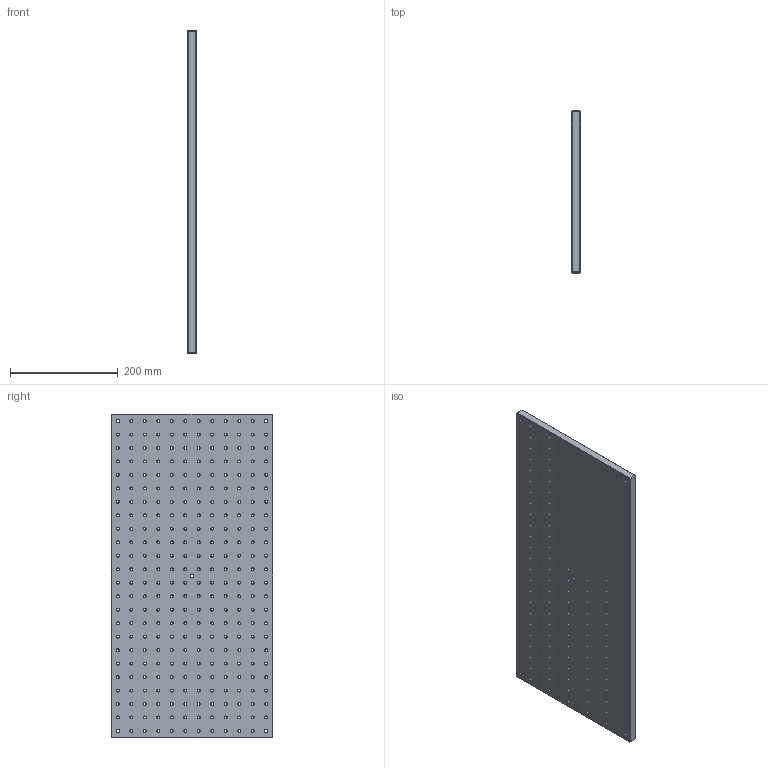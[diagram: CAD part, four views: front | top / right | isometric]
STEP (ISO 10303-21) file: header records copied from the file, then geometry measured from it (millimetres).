
FILE_DESCRIPTION(/* description */ (''),/* implementation_level */ '2;1');
FILE_NAME(/* name */ 'U:\KONSTRUKTORIAI\DOKUMENTACIJA\1\1B-ALE\1B-ALE-30-60-015\step\1B-ALE-30-60-015.stp',/* time_stamp */ '2016-06-15T08:10:26+03:00',/* author */ ('dsgn31'),/* organization */ (''),/* preprocessor_version */ 'ST-DEVELOPER v15.2',/* originating_system */ 'Autodesk Inventor 2014',/* authorisation */ '');
FILE_SCHEMA (('AUTOMOTIVE_DESIGN { 1 0 10303 214 3 1 1 }'));
Length unit declared in the file: millimetre
Products named in the file (1): 1B-ALE-30-60-015.01
Bounding box: 15 x 300 x 600 mm (x, y, z)
Volume: 2611828.8 mm3; surface area: 440125.1 mm2
Topology: 1 solids, 1 shells, 885 faces, 2342 edges, 1464 vertices
Faces by surface type: cone 568, cylinder 294, plane 23
Full cylindrical faces by diameter (mm): 4.917 x284, 6.5 x5, 11 x5
Entity records: 21887 total; most frequent: DIRECTION 4124, CARTESIAN_POINT 3262, ORIENTED_EDGE 2392, EDGE_LOOP 2330, AXIS2_PLACEMENT_3D 2042, FACE_BOUND 1447, EDGE_CURVE 1196, VERTEX_POINT 1180
